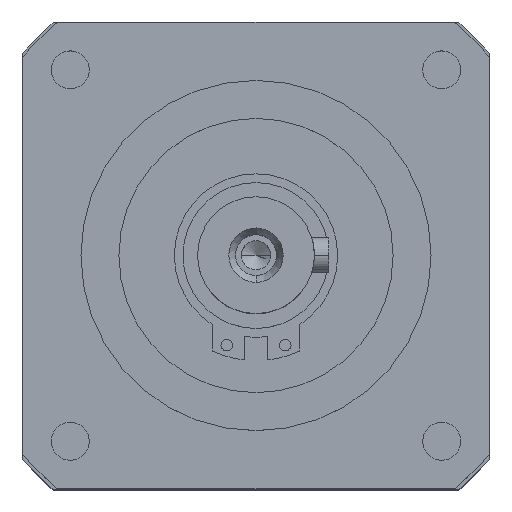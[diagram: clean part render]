
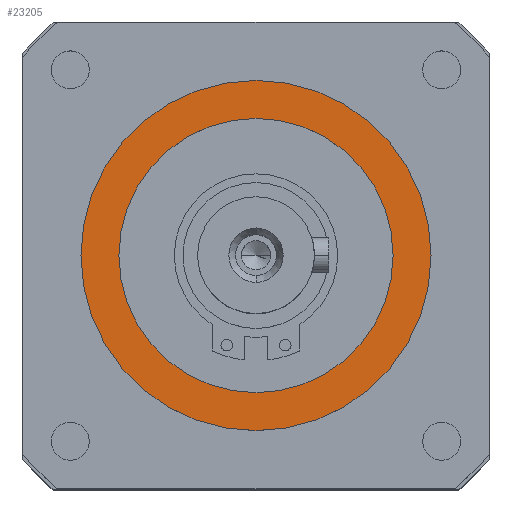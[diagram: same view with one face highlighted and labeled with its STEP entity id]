
A CAD part, top view. The second image highlights one B-rep face of the part: STEP entity #23205.
In plain terms, the highlighted planar face has unit normal (0, 0, 1).
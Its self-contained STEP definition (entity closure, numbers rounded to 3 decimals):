
#838 = DIRECTION ( 'NONE',  ( 0., 0., -1. ) ) ;
#1275 = AXIS2_PLACEMENT_3D ( 'NONE', #26538, #838, #33013 ) ;
#4166 = EDGE_CURVE ( 'NONE', #30609, #32238, #25196, .T. ) ;
#4594 = CIRCLE ( 'NONE', #15435, 23.5 ) ;
#5971 = CARTESIAN_POINT ( 'NONE',  ( 0., 0., 18. ) ) ;
#7817 = CIRCLE ( 'NONE', #39483, 30. ) ;
#9198 = DIRECTION ( 'NONE',  ( 1., 0., 0. ) ) ;
#9371 = ORIENTED_EDGE ( 'NONE', *, *, #29042, .F. ) ;
#9888 = CARTESIAN_POINT ( 'NONE',  ( 0., 0., 18. ) ) ;
#10414 = PLANE ( 'NONE',  #1275 ) ;
#11806 = FACE_BOUND ( 'NONE', #23897, .T. ) ;
#13196 = CARTESIAN_POINT ( 'NONE',  ( -23.5, 0., 18. ) ) ;
#13219 = DIRECTION ( 'NONE',  ( 1., 0., 0. ) ) ;
#15435 = AXIS2_PLACEMENT_3D ( 'NONE', #5971, #28560, #9198 ) ;
#15984 = EDGE_LOOP ( 'NONE', ( #39854, #9371 ) ) ;
#18397 = DIRECTION ( 'NONE',  ( 0., 0., 1. ) ) ;
#19084 = EDGE_CURVE ( 'NONE', #39080, #23785, #4594, .T. ) ;
#19953 = ORIENTED_EDGE ( 'NONE', *, *, #28441, .F. ) ;
#20785 = AXIS2_PLACEMENT_3D ( 'NONE', #37742, #18397, #41007 ) ;
#23205 = ADVANCED_FACE ( 'NONE', ( #36575, #11806 ), #10414, .F. ) ;
#23785 = VERTEX_POINT ( 'NONE', #37424 ) ;
#23897 = EDGE_LOOP ( 'NONE', ( #19953, #29926 ) ) ;
#24010 = AXIS2_PLACEMENT_3D ( 'NONE', #29198, #29191, #29156 ) ;
#24863 = CARTESIAN_POINT ( 'NONE',  ( -30., 0., 18. ) ) ;
#25196 = CIRCLE ( 'NONE', #24010, 30. ) ;
#26538 = CARTESIAN_POINT ( 'NONE',  ( 0., 30., 18. ) ) ;
#28441 = EDGE_CURVE ( 'NONE', #23785, #39080, #36232, .T. ) ;
#28560 = DIRECTION ( 'NONE',  ( 0., 0., 1. ) ) ;
#29042 = EDGE_CURVE ( 'NONE', #32238, #30609, #7817, .T. ) ;
#29156 = DIRECTION ( 'NONE',  ( 1., 0., 0. ) ) ;
#29191 = DIRECTION ( 'NONE',  ( 0., 0., -1. ) ) ;
#29198 = CARTESIAN_POINT ( 'NONE',  ( 0., 0., 18. ) ) ;
#29926 = ORIENTED_EDGE ( 'NONE', *, *, #19084, .F. ) ;
#30609 = VERTEX_POINT ( 'NONE', #31785 ) ;
#31785 = CARTESIAN_POINT ( 'NONE',  ( 30., 0., 18. ) ) ;
#32238 = VERTEX_POINT ( 'NONE', #24863 ) ;
#32498 = DIRECTION ( 'NONE',  ( 0., 0., -1. ) ) ;
#33013 = DIRECTION ( 'NONE',  ( -1., 0., 0. ) ) ;
#36232 = CIRCLE ( 'NONE', #20785, 23.5 ) ;
#36575 = FACE_OUTER_BOUND ( 'NONE', #15984, .T. ) ;
#37424 = CARTESIAN_POINT ( 'NONE',  ( 23.5, 0., 18. ) ) ;
#37742 = CARTESIAN_POINT ( 'NONE',  ( 0., 0., 18. ) ) ;
#39080 = VERTEX_POINT ( 'NONE', #13196 ) ;
#39483 = AXIS2_PLACEMENT_3D ( 'NONE', #9888, #32498, #13219 ) ;
#39854 = ORIENTED_EDGE ( 'NONE', *, *, #4166, .F. ) ;
#41007 = DIRECTION ( 'NONE',  ( 1., 0., 0. ) ) ;
